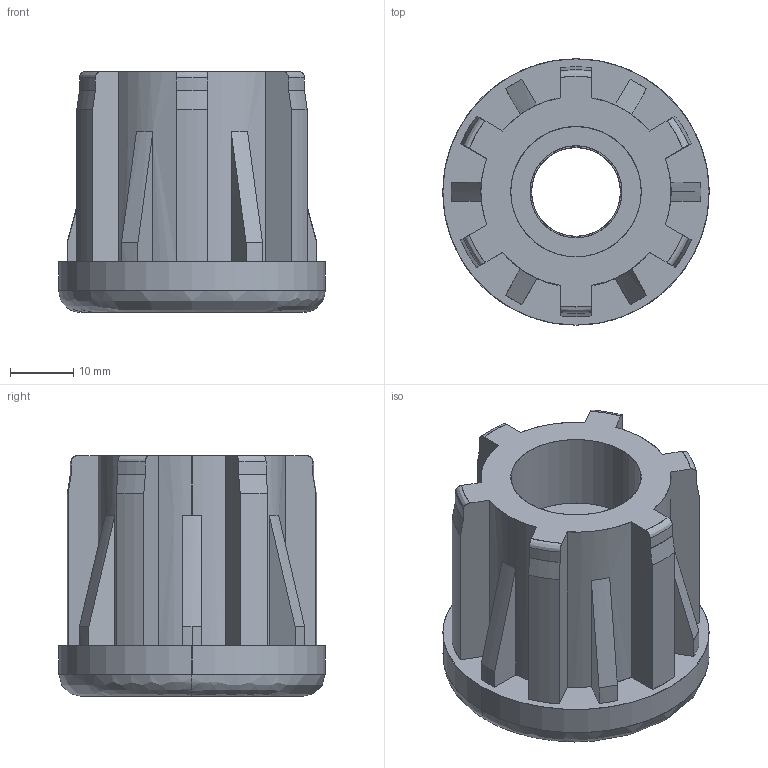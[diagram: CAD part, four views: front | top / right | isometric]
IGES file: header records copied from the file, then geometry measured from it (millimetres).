
Start section: SolidWorks IGES file using analytic representation for surfaces
Global section: file name: Y:\Tecnodin, S.L\PLAPP-Dirección - Documentos\General\Models CAD\Actiby\42006442214.IGS; native system: SolidWorks 2018; preprocessor: SolidWorks 2018; author: GerPro; date: 200225.180357; units: millimetre
Bounding box: 42 x 42 x 38 mm (x, y, z)
Surface area: 12328.7 mm2 (no closed solid volume)
Topology: 0 solids, 0 shells, 100 faces, 1107 edges, 1107 vertices
Faces by surface type: revolution 55, bspline 45
